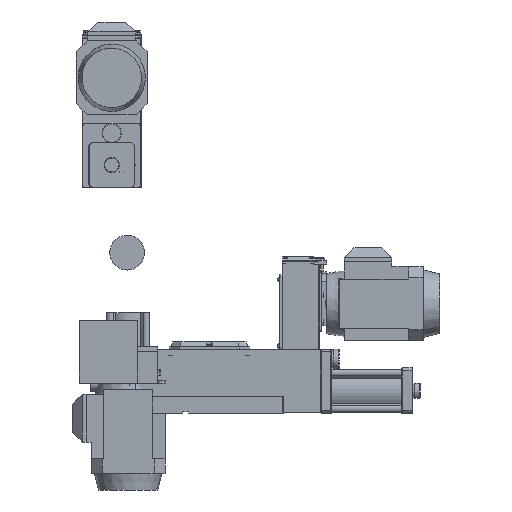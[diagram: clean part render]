
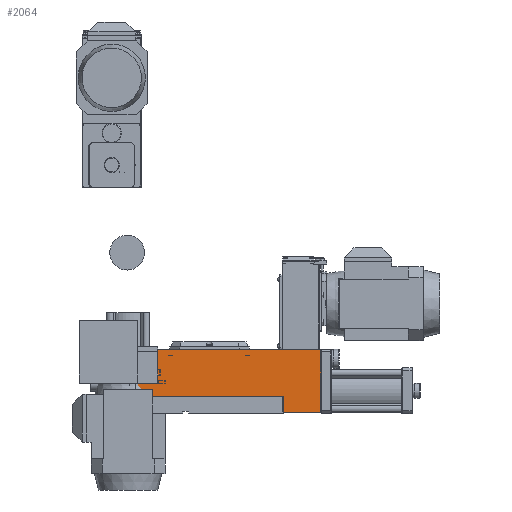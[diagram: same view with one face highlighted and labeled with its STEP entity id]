
A CAD part, left-side view. The second image highlights one B-rep face of the part: STEP entity #2064.
In plain terms, the highlighted planar face has unit normal (-1, 0, 0) as drawn and (0, 1, 0) by its records, which use the part's own axes.
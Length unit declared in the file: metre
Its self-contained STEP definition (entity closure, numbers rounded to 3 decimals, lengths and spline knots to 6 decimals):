
#2064 = ADVANCED_FACE( '', ( #3052 ), #3053, .T. );
#3052 = FACE_OUTER_BOUND( '', #4943, .T. );
#3053 = PLANE( '', #4944 );
#4943 = EDGE_LOOP( '', ( #7870, #7871, #7872, #7873, #7874, #7875 ) );
#4944 = AXIS2_PLACEMENT_3D( '', #7876, #7877, #7878 );
#7870 = ORIENTED_EDGE( '', *, *, #13130, .F. );
#7871 = ORIENTED_EDGE( '', *, *, #13098, .T. );
#7872 = ORIENTED_EDGE( '', *, *, #13114, .T. );
#7873 = ORIENTED_EDGE( '', *, *, #13129, .F. );
#7874 = ORIENTED_EDGE( '', *, *, #13085, .F. );
#7875 = ORIENTED_EDGE( '', *, *, #13092, .F. );
#7876 = CARTESIAN_POINT( '', ( -0.347, 0.098556, 0. ) );
#7877 = DIRECTION( '', ( 0., 1., 0. ) );
#7878 = DIRECTION( '', ( 0., 0., 1. ) );
#13085 = EDGE_CURVE( '', #14802, #14805, #14806, .T. );
#13092 = EDGE_CURVE( '', #14815, #14802, #14817, .T. );
#13098 = EDGE_CURVE( '', #14821, #14824, #14826, .T. );
#13114 = EDGE_CURVE( '', #14824, #14851, #14854, .T. );
#13129 = EDGE_CURVE( '', #14805, #14851, #14875, .T. );
#13130 = EDGE_CURVE( '', #14821, #14815, #14876, .T. );
#14802 = VERTEX_POINT( '', #17650 );
#14805 = VERTEX_POINT( '', #17654 );
#14806 = LINE( '', #17655, #17656 );
#14815 = VERTEX_POINT( '', #17670 );
#14817 = LINE( '', #17673, #17674 );
#14821 = VERTEX_POINT( '', #17680 );
#14824 = VERTEX_POINT( '', #17685 );
#14826 = LINE( '', #17688, #17689 );
#14851 = VERTEX_POINT( '', #17719 );
#14854 = LINE( '', #17723, #17724 );
#14875 = LINE( '', #17756, #17757 );
#14876 = LINE( '', #17758, #17759 );
#17650 = CARTESIAN_POINT( '', ( -0.3465, 0.098556, 0.1265 ) );
#17654 = CARTESIAN_POINT( '', ( -0.3465, 0.098556, 0.0005 ) );
#17655 = CARTESIAN_POINT( '', ( -0.3465, 0.098556, 0. ) );
#17656 = VECTOR( '', #22241, 1. );
#17670 = CARTESIAN_POINT( '', ( 0.0245, 0.098556, 0.1265 ) );
#17673 = CARTESIAN_POINT( '', ( -0.254, 0.098556, 0.1265 ) );
#17674 = VECTOR( '', #22248, 1. );
#17680 = CARTESIAN_POINT( '', ( 0.0245, 0.098556, 0.032 ) );
#17685 = CARTESIAN_POINT( '', ( -0.271, 0.098556, 0.032 ) );
#17688 = CARTESIAN_POINT( '', ( -0.235, 0.098556, 0.032 ) );
#17689 = VECTOR( '', #22254, 1. );
#17719 = CARTESIAN_POINT( '', ( -0.271, 0.098556, 0.0005 ) );
#17723 = CARTESIAN_POINT( '', ( -0.271, 0.098556, 0. ) );
#17724 = VECTOR( '', #22285, 1. );
#17756 = CARTESIAN_POINT( '', ( -0.254, 0.098556, 0.0005 ) );
#17757 = VECTOR( '', #22306, 1. );
#17758 = CARTESIAN_POINT( '', ( 0.0245, 0.098556, 0. ) );
#17759 = VECTOR( '', #22307, 1. );
#22241 = DIRECTION( '', ( 0., 0., -1. ) );
#22248 = DIRECTION( '', ( -1., 0., 0. ) );
#22254 = DIRECTION( '', ( -1., 0., 0. ) );
#22285 = DIRECTION( '', ( 0., 0., -1. ) );
#22306 = DIRECTION( '', ( 1., 0., 0. ) );
#22307 = DIRECTION( '', ( 0., 0., 1. ) );
